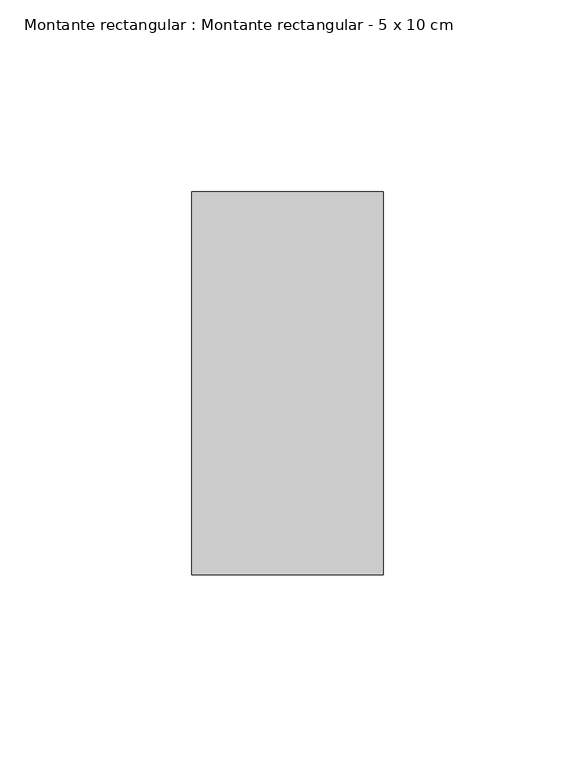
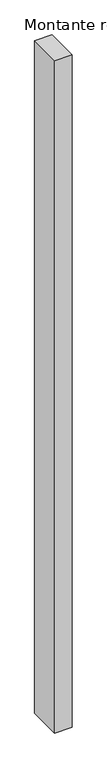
"""IFC4 building model written with IfcOpenShell, lengths in millimetres: member geometry, Montante rectangular : Montante rectangular - 5 x 10 cm."""

import ifcopenshell
import ifcopenshell.guid

model = None  # the IFC model being written
_history = None  # IfcOwnerHistory: only IFC2X3 demands one
_inside = {}  # id of a spatial element -> (the spatial element, [elements in it])
_under = {}  # id of a project, library or spatial element -> (it, [spatial elements below it])
_declared = {}  # id of a project -> (the project, [libraries it declares])
_typed = {}  # id of a type object -> (the type object, [elements of that type])
_made_of = {}  # id of a material, layer set ... -> (it, [elements and type objects made of it])


def new_model(schema):
    """Start an empty IFC model of exactly this schema.

    Asked for "IFC4X3", IfcOpenShell would pick the latest addendum, in which some entities
    have other attributes; the version numbers below select the first issue.
    IFC2X3 requires an IfcOwnerHistory on every rooted entity: one is made here for all.
    """
    global model, _history
    if schema == "IFC4X3":
        model = ifcopenshell.file(schema_version=(4, 3, 0, 0))
    else:
        model = ifcopenshell.file(schema=schema)
    _inside.clear()
    _under.clear()
    _declared.clear()
    _typed.clear()
    _made_of.clear()
    _history = None
    if model.schema == "IFC2X3":
        org = make("IfcOrganization", Name="unknown")
        user = make(
            "IfcPersonAndOrganization",
            ThePerson=make("IfcPerson", FamilyName="unknown"),
            TheOrganization=org,
        )
        app = make(
            "IfcApplication",
            ApplicationDeveloper=org,
            Version="unknown",
            ApplicationFullName="unknown",
            ApplicationIdentifier="unknown",
        )
        _history = make(
            "IfcOwnerHistory",
            OwningUser=user,
            OwningApplication=app,
            ChangeAction="ADDED",
            CreationDate=0,
        )
    return model


def make(cls, **values):
    """One entity of the class cls with the attributes given. An attribute that is None is left unset."""
    return model.create_entity(
        cls, **{name: value for name, value in values.items() if value is not None}
    )


def rooted(cls, **values):
    """An entity with a GlobalId (a new one), such as an element, a storey or a relation."""
    return make(cls, GlobalId=ifcopenshell.guid.new(), OwnerHistory=_history, **values)


def si_unit(unit_type, name, prefix=None):
    """IfcSIUnit, for example si_unit("LENGTHUNIT", "METRE", prefix="MILLI")."""
    return make("IfcSIUnit", UnitType=unit_type, Prefix=prefix, Name=name)


def assignment(units):
    """IfcUnitAssignment: the units of a project."""
    return None if units is None else make("IfcUnitAssignment", Units=units)


def point(xyz):
    """IfcCartesianPoint."""
    return None if xyz is None else make("IfcCartesianPoint", Coordinates=xyz)


def direction(xyz):
    """IfcDirection."""
    return None if xyz is None else make("IfcDirection", DirectionRatios=xyz)


def frame(location, z_axis=None, x_axis=None):
    """IfcAxis2Placement3D, a coordinate frame: its origin and axes. An axis left out is left unset."""
    return make(
        "IfcAxis2Placement3D",
        Location=point(location),
        Axis=direction(z_axis),
        RefDirection=direction(x_axis),
    )


def origin():
    """The frame at (0, 0, 0) with its axes left unset."""
    return frame((0.0, 0.0, 0.0))


def place(relative_to, where):
    """IfcLocalPlacement: puts the frame where relative to a parent placement (None: the world)."""
    return make(
        "IfcLocalPlacement", PlacementRelTo=relative_to, RelativePlacement=where
    )


def context(
    kind, dimensions, precision=None, world=None, true_north=None, identifier=None
):
    """IfcGeometricRepresentationContext, for example the 3D "Model" context."""
    return make(
        "IfcGeometricRepresentationContext",
        ContextIdentifier=identifier,
        ContextType=kind,
        CoordinateSpaceDimension=dimensions,
        Precision=precision,
        WorldCoordinateSystem=world,
        TrueNorth=true_north,
    )


def project(units=None, contexts=None):
    """IfcProject with its units and contexts."""
    return rooted(
        "IfcProject",
        Name="project",
        RepresentationContexts=contexts,
        UnitsInContext=assignment(units),
    )


def spatial(cls, under=None, at=None, **own):
    """A site, building, storey or space (cls), placed at a placement, below another one or the project."""
    s = rooted(cls, ObjectPlacement=at, **own)
    if under is not None:
        _under.setdefault(under.id(), (under, []))[1].append(s)
    return s


def polyline(points):
    """IfcPolyline through the points."""
    return make("IfcPolyline", Points=[point(p) for p in points])


def outline(outer, holes=None, kind="AREA"):
    """IfcArbitraryClosedProfileDef: a profile drawn as a closed curve; with holes, ...WithVoids."""
    if holes is None:
        return make("IfcArbitraryClosedProfileDef", ProfileType=kind, OuterCurve=outer)
    return make(
        "IfcArbitraryProfileDefWithVoids",
        ProfileType=kind,
        OuterCurve=outer,
        InnerCurves=holes,
    )


def extrude(swept, where, along, depth):
    """IfcExtrudedAreaSolid: the profile swept, set in the frame where, extruded along a direction by depth."""
    return make(
        "IfcExtrudedAreaSolid",
        SweptArea=swept,
        Position=where,
        ExtrudedDirection=direction(along),
        Depth=depth,
    )


def shape(context_of_items, identifier, shape_type, items):
    """IfcShapeRepresentation: the items that make up one representation, for example the "Body"."""
    return make(
        "IfcShapeRepresentation",
        ContextOfItems=context_of_items,
        RepresentationIdentifier=identifier,
        RepresentationType=shape_type,
        Items=items,
    )


def source(mapping_origin, context_of_items, identifier, shape_type, items):
    """IfcRepresentationMap: a shape defined once, which mapped items show again and again."""
    return make(
        "IfcRepresentationMap",
        MappingOrigin=mapping_origin,
        MappedRepresentation=shape(context_of_items, identifier, shape_type, items),
    )


def transform(
    local_origin,
    x_axis=None,
    y_axis=None,
    z_axis=None,
    scale=None,
    scale2=None,
    scale3=None,
    uniform=True,
):
    """IfcCartesianTransformationOperator3D, or its non-uniform kind. x_axis, y_axis, z_axis: its Axis1, 2, 3."""
    if uniform:
        return make(
            "IfcCartesianTransformationOperator3D",
            Axis1=direction(x_axis),
            Axis2=direction(y_axis),
            LocalOrigin=point(local_origin),
            Scale=scale,
            Axis3=direction(z_axis),
        )
    return make(
        "IfcCartesianTransformationOperator3DnonUniform",
        Axis1=direction(x_axis),
        Axis2=direction(y_axis),
        LocalOrigin=point(local_origin),
        Scale=scale,
        Axis3=direction(z_axis),
        Scale2=scale2,
        Scale3=scale3,
    )


def mapped(mapping_source, mapping_target):
    """IfcMappedItem: shows the shape of a source again, moved by a transform."""
    return make(
        "IfcMappedItem", MappingSource=mapping_source, MappingTarget=mapping_target
    )


def made_of(thing, what):
    """Note that an element or type object is made of a material, layer set ...; save() writes the relation."""
    if what is not None:
        _made_of.setdefault(what.id(), (what, []))[1].append(thing)
    return thing


def element(
    cls,
    number,
    at=None,
    inside=None,
    cuts=None,
    type_object=None,
    material=None,
    context=None,
    identifier="Body",
    shape_type=None,
    held_by="IfcProductDefinitionShape",
    body=None,
    shapes=None,
    **own,
):
    """One element of the class cls, such as IfcWall. Its Tag is "e" and its number.

    at: its placement. inside: the storey or other place that contains it. cuts: it is an
    opening in that element (IfcRelVoidsElement). A single representation is given by context,
    identifier, shape_type and body (its items); several are given by shapes. held_by: the class
    of the entity that holds the representations. save() writes the other relations.
    """
    e = rooted(cls, Tag="e%d" % number, ObjectPlacement=at, **own)
    if body is not None:
        shapes = [shape(context, identifier, shape_type, body)]
    if shapes is not None:
        e.Representation = make(held_by, Representations=shapes)
    if inside is not None:
        _inside.setdefault(inside.id(), (inside, []))[1].append(e)
    if cuts is not None:
        rooted(
            "IfcRelVoidsElement", RelatingBuildingElement=cuts, RelatedOpeningElement=e
        )
    if type_object is not None:
        _typed.setdefault(type_object.id(), (type_object, []))[1].append(e)
    return made_of(e, material)


def aggregate(whole, parts):
    """IfcRelAggregates: a whole, such as a stair, and the parts it consists of."""
    return rooted("IfcRelAggregates", RelatingObject=whole, RelatedObjects=parts)


def save(model, path):
    """Write the relations noted so far, then the file.

    IfcRelAggregates (storeys below a building ...), IfcRelContainedInSpatialStructure (elements
    in a storey), IfcRelDefinesByType, IfcRelAssociatesMaterial and IfcRelDeclares: one each for
    every whole, place, type object, material and project.
    """
    for whole, parts in _under.values():
        aggregate(whole, parts)
    for where, things in _inside.values():
        rooted(
            "IfcRelContainedInSpatialStructure",
            RelatedElements=things,
            RelatingStructure=where,
        )
    for kind, things in _typed.values():
        rooted("IfcRelDefinesByType", RelatedObjects=things, RelatingType=kind)
    for what, things in _made_of.values():
        rooted("IfcRelAssociatesMaterial", RelatedObjects=things, RelatingMaterial=what)
    for by, libraries in _declared.values():
        rooted("IfcRelDeclares", RelatingContext=by, RelatedDefinitions=libraries)
    model.write(path)


def montante_rectangular_montante_rectangular_5_x_10_cm_d23f395f(model_context):
    return source(origin(), model_context, "Body", "SweptSolid", [
        extrude(outline(polyline([(0.0, 50.0), (0.0, -50.0), (-50.0, -50.0), (-50.0, 50.0), (0.0, 50.0)])), frame((0.0, 0.0, -2050.0), z_axis=(0.0, 0.0, 1.0), x_axis=(1.0, 0.0, 0.0)), (0.0, 0.0, 1.0), 2050.0),
    ])


if __name__ == "__main__":
    model = new_model("IFC4")
    model_context = context("Model", 3, world=origin())
    ifc_project = project(units=[si_unit("LENGTHUNIT", "METRE", prefix="MILLI")], contexts=[model_context])
    site = spatial("IfcSite", under=ifc_project)
    building = spatial("IfcBuilding", under=site)
    placement = place(None, origin())
    montante_rectangular_montante_rectangular_5_x_10_cm_shape = montante_rectangular_montante_rectangular_5_x_10_cm_d23f395f(model_context)
    element("IfcMember", 1, ObjectType="Montante rectangular : Montante rectangular - 5 x 10 cm", at=placement, inside=building, context=model_context, shape_type="MappedRepresentation", body=[
        mapped(montante_rectangular_montante_rectangular_5_x_10_cm_shape, transform((0.0, 0.0, 0.0), x_axis=(1.0, 0.0, 0.0), y_axis=(0.0, 1.0, 0.0), z_axis=(0.0, 0.0, 1.0))),
    ])
    save(model, "model.ifc")
